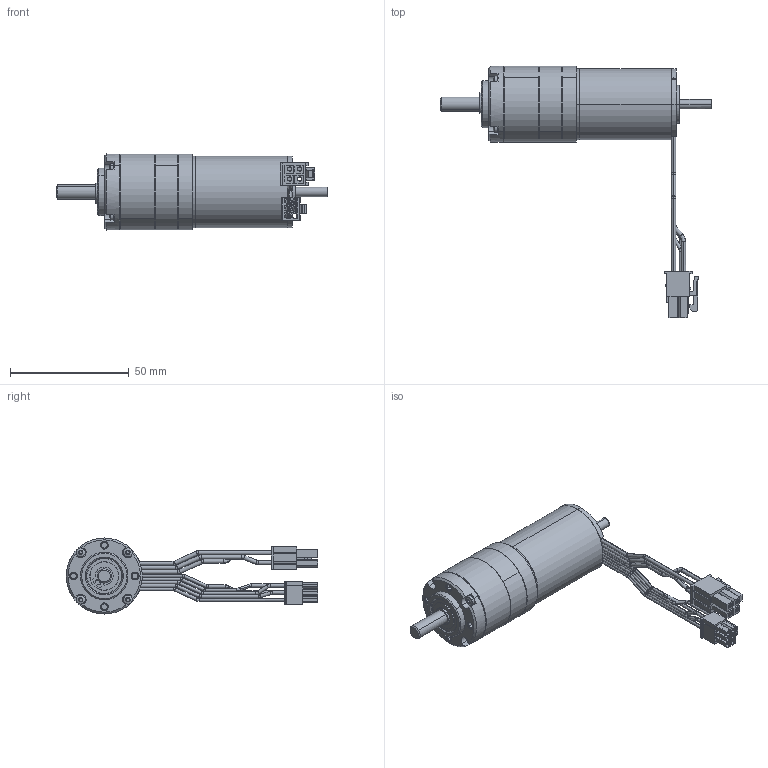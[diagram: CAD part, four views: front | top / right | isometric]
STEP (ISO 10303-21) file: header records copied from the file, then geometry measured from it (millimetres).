
FILE_DESCRIPTION (( 'STEP AP214' ), '1' );
FILE_NAME ('EC-i30+PM32-2 étages.STEP', '2019-11-12T14:24:56', ( '' ), ( '' ), 'SwSTEP 2.0', 'SolidWorks 2018', '' );
FILE_SCHEMA (( 'AUTOMOTIVE_DESIGN' ));
Length unit declared in the file: millimetre
Products named in the file (21): GK235_POS42_DICHTRING_2; 539481_EC-i30_45W_HighTorque; 8002481_MOTORRITZEL_Z17; SCHRAUBEN_1232149; EC-i30+PM32-2 étages; PM32 pour ECMax30L_2 etages; 8011610_ANLAUFSCHEIBE_G_1ST_2; 8101913_LAGERFLANSCH_2; Coté moteur^PM32 pour ECMax30L; GK545_POS23_4_ABTRIEB_LK4_KPL_2; P8209_8100249_ZAHNKRANZ_2 etages; FLACHKOPFSCHRAUBE_M2X21_PRECOTE_2; D625-619_6-2Z_2; Coté sortie^PM32 pour ECMax30L; DIN471_SR_06X00_7_2; D472_15X1_2; 1009218; GK545_POS22_ABTRIEB_ROHTEIL_AF0_2; DIN998_PS_6X12X0_5_2; P8209_8100249_ZAHNKRANZ_1ST_2; GK235_POS13_LAGERBOLZEN_2
Assembly tree (32 placements, depth 5):
  EC-i30+PM32-2 étages
    PM32 pour ECMax30L_2 etages
      P8209_8100249_ZAHNKRANZ_1ST_2
      Coté sortie^PM32 pour ECMax30L
        8101913_LAGERFLANSCH_2
        D472_15X1_2
        D625-619_6-2Z_2  x2
        DIN998_PS_6X12X0_5_2  x2
        GK545_POS23_4_ABTRIEB_LK4_KPL_2
          GK545_POS22_ABTRIEB_ROHTEIL_AF0_2
          GK235_POS13_LAGERBOLZEN_2  x3
        DIN471_SR_06X00_7_2
        GK235_POS42_DICHTRING_2
        FLACHKOPFSCHRAUBE_M2X21_PRECOTE_2  x4
      Coté moteur^PM32 pour ECMax30L
        GK235_POS42_DICHTRING_2
        8011610_ANLAUFSCHEIBE_G_1ST_2
        8002481_MOTORRITZEL_Z17
      GK235_POS42_DICHTRING_2
      SCHRAUBEN_1232149  x4
      1009218
      P8209_8100249_ZAHNKRANZ_2 etages
    539481_EC-i30_45W_HighTorque
Bounding box: 114.3 x 105.86 x 32 mm (x, y, z)
Volume: 16048.4 mm3; surface area: 36600.9 mm2
Topology: 22 solids, 46 shells, 2029 faces, 5485 edges, 3546 vertices
Faces by surface type: plane 853, cylinder 816, cone 147, bspline 129, torus 80, sphere 4
Entity records: 77082 total; most frequent: CARTESIAN_POINT 14092, ORIENTED_EDGE 9516, DIRECTION 9512, EDGE_CURVE 4802, AXIS2_PLACEMENT_3D 3316, VERTEX_POINT 3126, VECTOR 2880, LINE 2880
